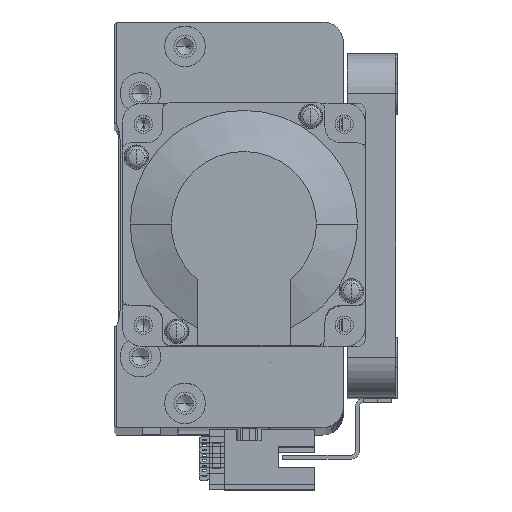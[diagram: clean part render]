
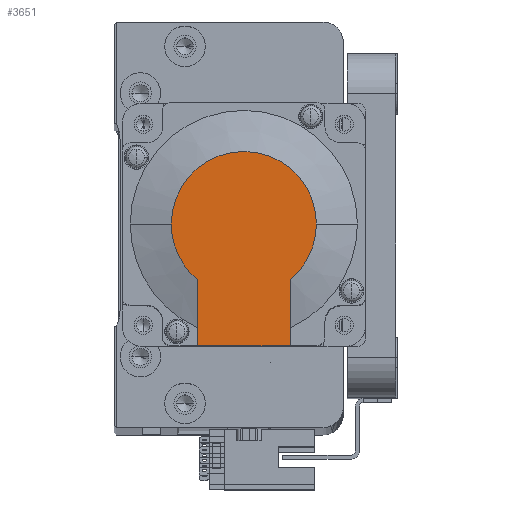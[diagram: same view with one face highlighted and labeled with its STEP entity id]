
A CAD part, top view. The second image highlights one B-rep face of the part: STEP entity #3651.
In plain terms, the highlighted planar face has unit normal (0, 0, 1) as drawn and (-1, 0, 0) by its records, which use the part's own axes.
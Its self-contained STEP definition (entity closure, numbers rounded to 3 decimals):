
#415 = CIRCLE ( 'NONE', #25127, 17.881 ) ;
#1016 = ORIENTED_EDGE ( 'NONE', *, *, #8141, .T. ) ;
#2307 = DIRECTION ( 'NONE',  ( 0., -1., 0. ) ) ;
#3528 = ORIENTED_EDGE ( 'NONE', *, *, #49111, .T. ) ;
#3651 = ADVANCED_FACE ( 'NONE', ( #10604 ), #7505, .T. ) ;
#3790 = EDGE_LOOP ( 'NONE', ( #11846, #51158, #3528, #1016, #55496, #35270 ) ) ;
#4569 = CARTESIAN_POINT ( 'NONE',  ( -118.5, 13.735, -11.45 ) ) ;
#6391 = VERTEX_POINT ( 'NONE', #21714 ) ;
#7505 = PLANE ( 'NONE',  #26371 ) ;
#8141 = EDGE_CURVE ( 'NONE', #6391, #40687, #51226, .T. ) ;
#8152 = EDGE_CURVE ( 'NONE', #23813, #14100, #39151, .T. ) ;
#10604 = FACE_OUTER_BOUND ( 'NONE', #3790, .T. ) ;
#11846 = ORIENTED_EDGE ( 'NONE', *, *, #8152, .T. ) ;
#14100 = VERTEX_POINT ( 'NONE', #4569 ) ;
#14433 = VERTEX_POINT ( 'NONE', #17342 ) ;
#15691 = CARTESIAN_POINT ( 'NONE',  ( -118.5, 0., 0. ) ) ;
#16981 = DIRECTION ( 'NONE',  ( -1., 0., 0. ) ) ;
#17342 = CARTESIAN_POINT ( 'NONE',  ( -118.5, 30., 11.45 ) ) ;
#18557 = DIRECTION ( 'NONE',  ( 0., -1., 0. ) ) ;
#18886 = CARTESIAN_POINT ( 'NONE',  ( -118.5, 30., -11.45 ) ) ;
#20198 = DIRECTION ( 'NONE',  ( 0., 0., -1. ) ) ;
#21714 = CARTESIAN_POINT ( 'NONE',  ( -118.5, 0., 17.881 ) ) ;
#23499 = CARTESIAN_POINT ( 'NONE',  ( -118.5, 30., 25. ) ) ;
#23813 = VERTEX_POINT ( 'NONE', #18886 ) ;
#23977 = DIRECTION ( 'NONE',  ( -1., 0., 0. ) ) ;
#25127 = AXIS2_PLACEMENT_3D ( 'NONE', #44154, #16981, #48694 ) ;
#25640 = CARTESIAN_POINT ( 'NONE',  ( -118.5, -8.941, 0. ) ) ;
#26371 = AXIS2_PLACEMENT_3D ( 'NONE', #25640, #57281, #30133 ) ;
#27132 = LINE ( 'NONE', #45670, #51237 ) ;
#28549 = CARTESIAN_POINT ( 'NONE',  ( -118.5, 0., -17.881 ) ) ;
#28910 = CIRCLE ( 'NONE', #50462, 17.881 ) ;
#30133 = DIRECTION ( 'NONE',  ( 0., 0., 1. ) ) ;
#30616 = VECTOR ( 'NONE', #37150, 1000. ) ;
#31275 = EDGE_CURVE ( 'NONE', #14100, #51373, #28910, .T. ) ;
#35270 = ORIENTED_EDGE ( 'NONE', *, *, #35780, .F. ) ;
#35780 = EDGE_CURVE ( 'NONE', #23813, #14433, #42723, .T. ) ;
#36279 = VECTOR ( 'NONE', #2307, 1000. ) ;
#37150 = DIRECTION ( 'NONE',  ( 0., 0., 1. ) ) ;
#39151 = LINE ( 'NONE', #56041, #36279 ) ;
#40687 = VERTEX_POINT ( 'NONE', #51394 ) ;
#42723 = LINE ( 'NONE', #23499, #30616 ) ;
#44154 = CARTESIAN_POINT ( 'NONE',  ( -118.5, 0., 0. ) ) ;
#45670 = CARTESIAN_POINT ( 'NONE',  ( -118.5, 0., 11.45 ) ) ;
#47340 = DIRECTION ( 'NONE',  ( -1., 0., 0. ) ) ;
#48694 = DIRECTION ( 'NONE',  ( 0., 0., -1. ) ) ;
#49111 = EDGE_CURVE ( 'NONE', #51373, #6391, #415, .T. ) ;
#50462 = AXIS2_PLACEMENT_3D ( 'NONE', #51131, #23977, #55647 ) ;
#51131 = CARTESIAN_POINT ( 'NONE',  ( -118.5, 0., 0. ) ) ;
#51158 = ORIENTED_EDGE ( 'NONE', *, *, #31275, .T. ) ;
#51226 = CIRCLE ( 'NONE', #56261, 17.881 ) ;
#51237 = VECTOR ( 'NONE', #18557, 1000. ) ;
#51373 = VERTEX_POINT ( 'NONE', #28549 ) ;
#51394 = CARTESIAN_POINT ( 'NONE',  ( -118.5, 13.735, 11.45 ) ) ;
#54562 = EDGE_CURVE ( 'NONE', #14433, #40687, #27132, .T. ) ;
#55496 = ORIENTED_EDGE ( 'NONE', *, *, #54562, .F. ) ;
#55647 = DIRECTION ( 'NONE',  ( 0., 0., -1. ) ) ;
#56041 = CARTESIAN_POINT ( 'NONE',  ( -118.5, -8.941, -11.45 ) ) ;
#56261 = AXIS2_PLACEMENT_3D ( 'NONE', #15691, #47340, #20198 ) ;
#57281 = DIRECTION ( 'NONE',  ( -1., 0., 0. ) ) ;
